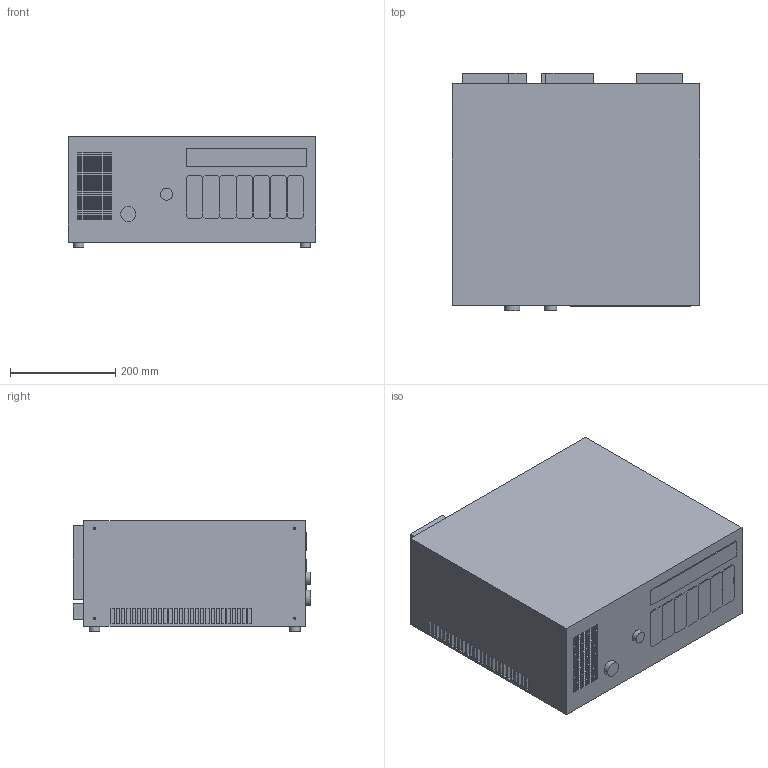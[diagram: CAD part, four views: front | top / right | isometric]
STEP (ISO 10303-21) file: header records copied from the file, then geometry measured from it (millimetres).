
FILE_DESCRIPTION((''),'2;1');
FILE_NAME('Z:\BD_CAO\BD_Motoman\Accessoires\Armoire FS100\FS100 YFR.stp','2011-10-20T10:43:04',('hc'),(''),'Autodesk Inventor 2009','Autodesk Inventor 2009','');
FILE_SCHEMA(('AUTOMOTIVE_DESIGN { 1 0 10303 214 1 1 1 1 }'));
Length unit declared in the file: millimetre
Products named in the file (1): FS100 YFR
Bounding box: 470 x 450 x 210 mm (x, y, z)
Volume: 40058718.8 mm3; surface area: 855518.1 mm2
Topology: 1 solids, 1 shells, 766 faces, 1830 edges, 1220 vertices
Faces by surface type: plane 732, cylinder 18, bspline 16
Full cylindrical faces by diameter (mm): 20 x4, 23.092 x1, 28.901 x1, 31.46 x3, 43.791 x3, 62.052 x3, 71.299 x3
Entity records: 21666 total; most frequent: CARTESIAN_POINT 4023, ORIENTED_EDGE 3560, DIRECTION 3334, EDGE_CURVE 1780, VECTOR 1728, LINE 1728, VERTEX_POINT 1204, EDGE_LOOP 954
